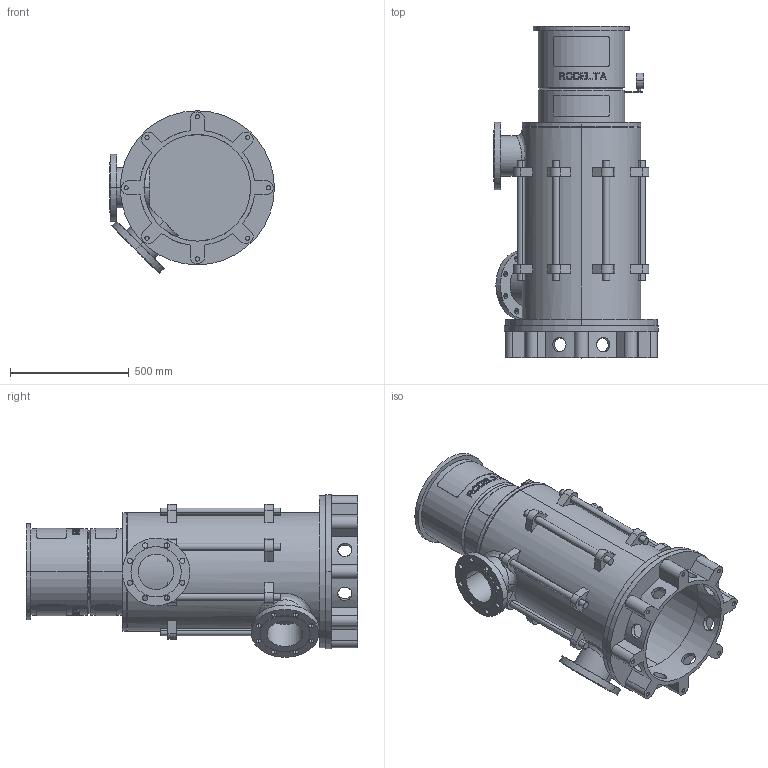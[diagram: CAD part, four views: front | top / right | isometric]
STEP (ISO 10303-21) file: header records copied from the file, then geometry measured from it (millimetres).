
FILE_DESCRIPTION((''),'2;1');
FILE_NAME('LS6_3TR_0GR_PN16_TOT_30KW','2025-10-23T11:40:22',('Lyritlocal'),(''),'CREO PARAMETRIC BY PTC INC, 2022014','CREO PARAMETRIC BY PTC INC, 2022014','');
FILE_SCHEMA(('CONFIG_CONTROL_DESIGN'));
Length unit declared in the file: millimetre
Products named in the file (1): LS6_3TR_0GR_PN16_TOT_30KW
Bounding box: 695 x 1399 x 685.27 mm (x, y, z)
Volume: 45457957 mm3; surface area: 6032131 mm2
Topology: 3 solids, 11 shells, 732 faces, 1889 edges, 1258 vertices
Faces by surface type: plane 438, cylinder 274, cone 12, bspline 8
Entity records: 24354 total; most frequent: CARTESIAN_POINT 6534, ORIENTED_EDGE 3746, DIRECTION 3535, EDGE_CURVE 1889, AXIS2_PLACEMENT_3D 1341, VERTEX_POINT 1258, EDGE_LOOP 895, VECTOR 853
